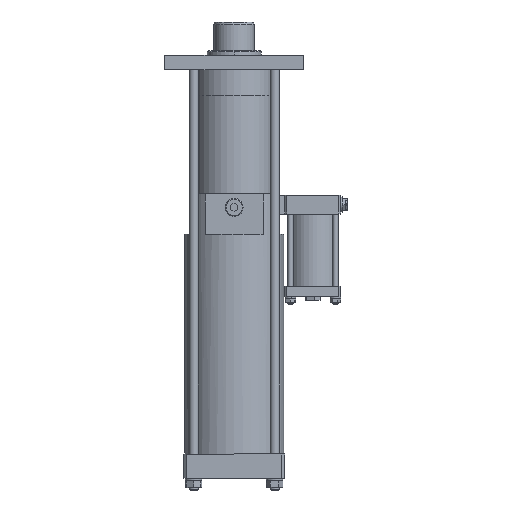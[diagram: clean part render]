
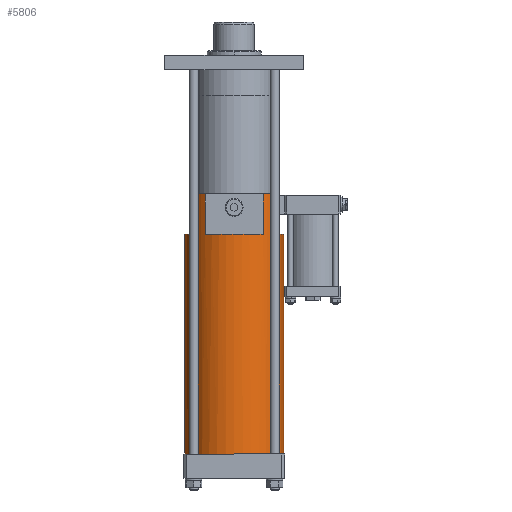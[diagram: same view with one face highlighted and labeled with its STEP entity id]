
A CAD part, front view. The second image highlights one B-rep face of the part: STEP entity #5806.
In plain terms, the highlighted cylindrical face has radius 55 mm (diameter 110 mm), a partial arc.
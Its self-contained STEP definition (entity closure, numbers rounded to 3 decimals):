
#223 = LINE ( 'NONE', #6078, #8991 ) ;
#374 = EDGE_CURVE ( 'NONE', #5601, #2887, #8249, .T. ) ;
#397 = EDGE_CURVE ( 'NONE', #3037, #9989, #5869, .T. ) ;
#409 = CIRCLE ( 'NONE', #505, 55. ) ;
#488 = EDGE_CURVE ( 'NONE', #4053, #3037, #409, .T. ) ;
#493 = DIRECTION ( 'NONE',  ( 0., 0., -1. ) ) ;
#505 = AXIS2_PLACEMENT_3D ( 'NONE', #828, #860, #857 ) ;
#559 = CIRCLE ( 'NONE', #2926, 55. ) ;
#657 = ORIENTED_EDGE ( 'NONE', *, *, #2297, .F. ) ;
#709 = EDGE_CURVE ( 'NONE', #3574, #4094, #5448, .T. ) ;
#828 = CARTESIAN_POINT ( 'NONE',  ( 0., 0., -204. ) ) ;
#857 = DIRECTION ( 'NONE',  ( -1., 0., 0. ) ) ;
#860 = DIRECTION ( 'NONE',  ( 0., 0., 1. ) ) ;
#918 = ORIENTED_EDGE ( 'NONE', *, *, #3729, .T. ) ;
#982 = ORIENTED_EDGE ( 'NONE', *, *, #5521, .F. ) ;
#1013 = EDGE_CURVE ( 'NONE', #5207, #3146, #3770, .T. ) ;
#1044 = ORIENTED_EDGE ( 'NONE', *, *, #488, .F. ) ;
#1131 = VECTOR ( 'NONE', #9933, 1000. ) ;
#1351 = DIRECTION ( 'NONE',  ( 0., 0., -1. ) ) ;
#1410 = VECTOR ( 'NONE', #9110, 1000. ) ;
#1648 = CARTESIAN_POINT ( 'NONE',  ( 55., 0., -204. ) ) ;
#1822 = LINE ( 'NONE', #6187, #10697 ) ;
#2297 = EDGE_CURVE ( 'NONE', #6054, #7043, #8223, .T. ) ;
#2455 = EDGE_CURVE ( 'NONE', #2887, #4094, #3045, .T. ) ;
#2593 = CYLINDRICAL_SURFACE ( 'NONE', #7287, 55. ) ;
#2887 = VERTEX_POINT ( 'NONE', #6945 ) ;
#2926 = AXIS2_PLACEMENT_3D ( 'NONE', #9699, #9706, #9735 ) ;
#3021 = DIRECTION ( 'NONE',  ( 0., 0., 1. ) ) ;
#3037 = VERTEX_POINT ( 'NONE', #4464 ) ;
#3045 = LINE ( 'NONE', #4836, #5253 ) ;
#3056 = CARTESIAN_POINT ( 'NONE',  ( 0., 0., -204. ) ) ;
#3064 = EDGE_CURVE ( 'NONE', #7043, #6946, #6746, .T. ) ;
#3067 = DIRECTION ( 'NONE',  ( -1., 0., 0. ) ) ;
#3095 = CARTESIAN_POINT ( 'NONE',  ( 32.323, -44.5, -159. ) ) ;
#3146 = VERTEX_POINT ( 'NONE', #3522 ) ;
#3455 = ORIENTED_EDGE ( 'NONE', *, *, #4808, .T. ) ;
#3522 = CARTESIAN_POINT ( 'NONE',  ( 44.5, -32.323, -204. ) ) ;
#3574 = VERTEX_POINT ( 'NONE', #9949 ) ;
#3729 = EDGE_CURVE ( 'NONE', #3574, #6946, #1822, .T. ) ;
#3770 = LINE ( 'NONE', #7392, #9838 ) ;
#4053 = VERTEX_POINT ( 'NONE', #7151 ) ;
#4094 = VERTEX_POINT ( 'NONE', #10728 ) ;
#4216 = DIRECTION ( 'NONE',  ( -1., 0., 0. ) ) ;
#4229 = DIRECTION ( 'NONE',  ( 0., 0., -1. ) ) ;
#4250 = CARTESIAN_POINT ( 'NONE',  ( 0., 0., -448. ) ) ;
#4285 = AXIS2_PLACEMENT_3D ( 'NONE', #8098, #493, #6330 ) ;
#4287 = EDGE_LOOP ( 'NONE', ( #657, #982, #5975, #3455, #7888, #1044, #7661, #9305, #4629, #8309, #918, #8020 ) ) ;
#4380 = DIRECTION ( 'NONE',  ( -1., 0., 0. ) ) ;
#4444 = CARTESIAN_POINT ( 'NONE',  ( 55., 0., -448. ) ) ;
#4464 = CARTESIAN_POINT ( 'NONE',  ( 32.323, -44.5, -204. ) ) ;
#4629 = ORIENTED_EDGE ( 'NONE', *, *, #2455, .T. ) ;
#4808 = EDGE_CURVE ( 'NONE', #5207, #9989, #8781, .T. ) ;
#4836 = CARTESIAN_POINT ( 'NONE',  ( -44.5, -32.323, -181.5 ) ) ;
#5063 = FACE_OUTER_BOUND ( 'NONE', #4287, .T. ) ;
#5207 = VERTEX_POINT ( 'NONE', #5262 ) ;
#5237 = CARTESIAN_POINT ( 'NONE',  ( 0., 0., -159. ) ) ;
#5240 = DIRECTION ( 'NONE',  ( 0., 0., -1. ) ) ;
#5253 = VECTOR ( 'NONE', #5240, 1000. ) ;
#5262 = CARTESIAN_POINT ( 'NONE',  ( 44.5, -32.323, -159. ) ) ;
#5374 = DIRECTION ( 'NONE',  ( 0., 0., -1. ) ) ;
#5448 = CIRCLE ( 'NONE', #9034, 55. ) ;
#5521 = EDGE_CURVE ( 'NONE', #3146, #6054, #559, .T. ) ;
#5601 = VERTEX_POINT ( 'NONE', #10530 ) ;
#5610 = DIRECTION ( 'NONE',  ( 0., 0., -1. ) ) ;
#5697 = AXIS2_PLACEMENT_3D ( 'NONE', #8981, #8942, #9085 ) ;
#5806 = ADVANCED_FACE ( 'NONE', ( #5063 ), #2593, .T. ) ;
#5869 = LINE ( 'NONE', #9232, #1410 ) ;
#5975 = ORIENTED_EDGE ( 'NONE', *, *, #1013, .F. ) ;
#6054 = VERTEX_POINT ( 'NONE', #1648 ) ;
#6078 = CARTESIAN_POINT ( 'NONE',  ( -32.323, -44.5, -303.5 ) ) ;
#6187 = CARTESIAN_POINT ( 'NONE',  ( -55., 0., -159. ) ) ;
#6330 = DIRECTION ( 'NONE',  ( -1., 0., 0. ) ) ;
#6746 = CIRCLE ( 'NONE', #8043, 55. ) ;
#6945 = CARTESIAN_POINT ( 'NONE',  ( -44.5, -32.323, -159. ) ) ;
#6946 = VERTEX_POINT ( 'NONE', #8057 ) ;
#7043 = VERTEX_POINT ( 'NONE', #4444 ) ;
#7151 = CARTESIAN_POINT ( 'NONE',  ( -32.323, -44.5, -204. ) ) ;
#7287 = AXIS2_PLACEMENT_3D ( 'NONE', #5237, #5374, #4380 ) ;
#7392 = CARTESIAN_POINT ( 'NONE',  ( 44.5, -32.323, -303.5 ) ) ;
#7661 = ORIENTED_EDGE ( 'NONE', *, *, #10720, .F. ) ;
#7888 = ORIENTED_EDGE ( 'NONE', *, *, #397, .F. ) ;
#8020 = ORIENTED_EDGE ( 'NONE', *, *, #3064, .F. ) ;
#8043 = AXIS2_PLACEMENT_3D ( 'NONE', #4250, #4229, #4216 ) ;
#8057 = CARTESIAN_POINT ( 'NONE',  ( -55., 0., -448. ) ) ;
#8098 = CARTESIAN_POINT ( 'NONE',  ( 0., 0., -159. ) ) ;
#8223 = LINE ( 'NONE', #10621, #1131 ) ;
#8249 = CIRCLE ( 'NONE', #5697, 55. ) ;
#8309 = ORIENTED_EDGE ( 'NONE', *, *, #709, .F. ) ;
#8742 = DIRECTION ( 'NONE',  ( 0., 0., -1. ) ) ;
#8781 = CIRCLE ( 'NONE', #4285, 55. ) ;
#8942 = DIRECTION ( 'NONE',  ( 0., 0., -1. ) ) ;
#8981 = CARTESIAN_POINT ( 'NONE',  ( 0., 0., -159. ) ) ;
#8991 = VECTOR ( 'NONE', #1351, 1000. ) ;
#9034 = AXIS2_PLACEMENT_3D ( 'NONE', #3056, #3021, #3067 ) ;
#9085 = DIRECTION ( 'NONE',  ( -1., 0., 0. ) ) ;
#9110 = DIRECTION ( 'NONE',  ( 0., 0., 1. ) ) ;
#9232 = CARTESIAN_POINT ( 'NONE',  ( 32.323, -44.5, -303.5 ) ) ;
#9305 = ORIENTED_EDGE ( 'NONE', *, *, #374, .T. ) ;
#9699 = CARTESIAN_POINT ( 'NONE',  ( 0., 0., -204. ) ) ;
#9706 = DIRECTION ( 'NONE',  ( 0., 0., 1. ) ) ;
#9735 = DIRECTION ( 'NONE',  ( -1., 0., 0. ) ) ;
#9838 = VECTOR ( 'NONE', #8742, 1000. ) ;
#9933 = DIRECTION ( 'NONE',  ( 0., 0., -1. ) ) ;
#9949 = CARTESIAN_POINT ( 'NONE',  ( -55., 0., -204. ) ) ;
#9989 = VERTEX_POINT ( 'NONE', #3095 ) ;
#10530 = CARTESIAN_POINT ( 'NONE',  ( -32.323, -44.5, -159. ) ) ;
#10621 = CARTESIAN_POINT ( 'NONE',  ( 55., 0., -159. ) ) ;
#10697 = VECTOR ( 'NONE', #5610, 1000. ) ;
#10720 = EDGE_CURVE ( 'NONE', #5601, #4053, #223, .T. ) ;
#10728 = CARTESIAN_POINT ( 'NONE',  ( -44.5, -32.323, -204. ) ) ;
